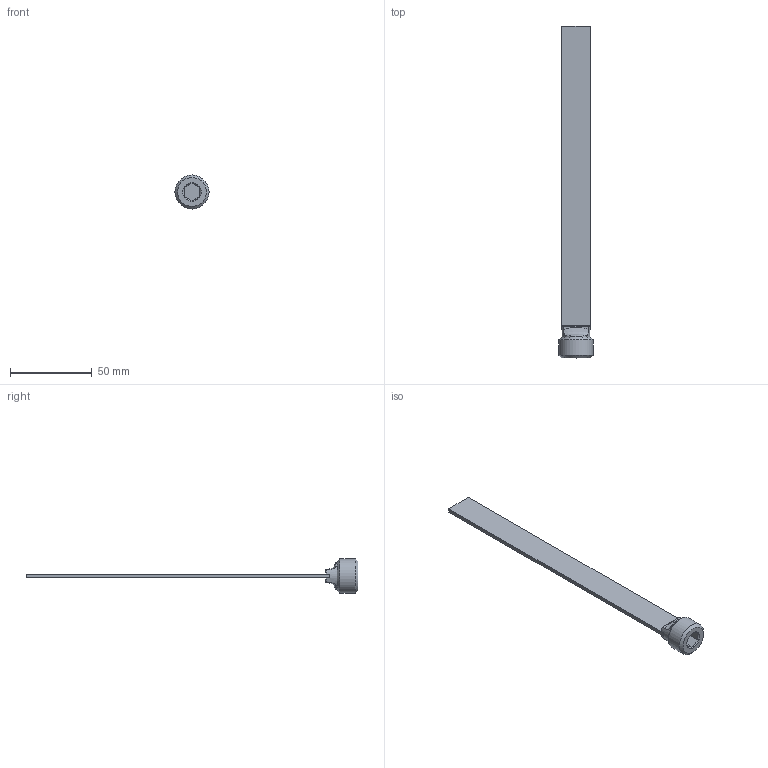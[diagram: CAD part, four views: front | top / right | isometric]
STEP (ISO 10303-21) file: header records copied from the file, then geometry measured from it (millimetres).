
FILE_DESCRIPTION(/* description */ (''),/* implementation_level */ '2;1');
FILE_NAME(/* name */ 'C:/Users/drich/Desktop/SB12X8 BSP v1.step',/* time_stamp */ '2020-01-04T16:01:16-06:00',/* author */ (''),/* organization */ (''),/* preprocessor_version */ 'ST-DEVELOPER v18',/* originating_system */ 'Autodesk Translation Framework v8.12.0.6',/* authorisation */ '');
FILE_SCHEMA (('AUTOMOTIVE_DESIGN { 1 0 10303 214 3 1 1 }'));
Length unit declared in the file: inch
Products named in the file (1): SB12X8 BSP
Bounding box: 20.81 x 203.2 x 20.81 mm (x, y, z)
Volume: 11831.8 mm3; surface area: 9263.9 mm2
Topology: 1 solids, 1 shells, 35 faces, 89 edges, 58 vertices
Faces by surface type: plane 18, cylinder 6, torus 6, cone 3, bspline 2
Full cylindrical faces by diameter (mm): 17.018 x1, 20.813 x1
Entity records: 1490 total; most frequent: CARTESIAN_POINT 630, ORIENTED_EDGE 178, DIRECTION 161, EDGE_CURVE 89, AXIS2_PLACEMENT_3D 60, VERTEX_POINT 58, LINE 41, VECTOR 41
